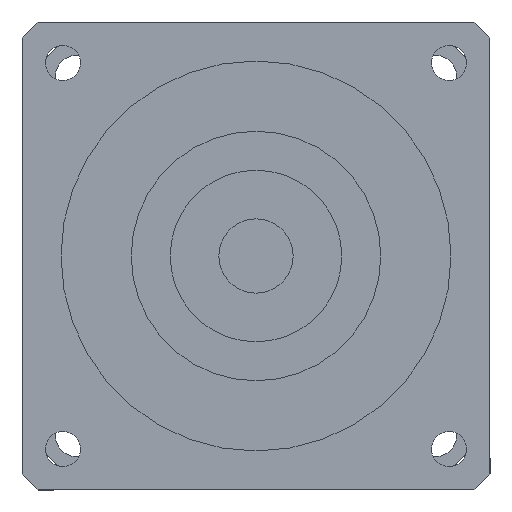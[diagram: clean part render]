
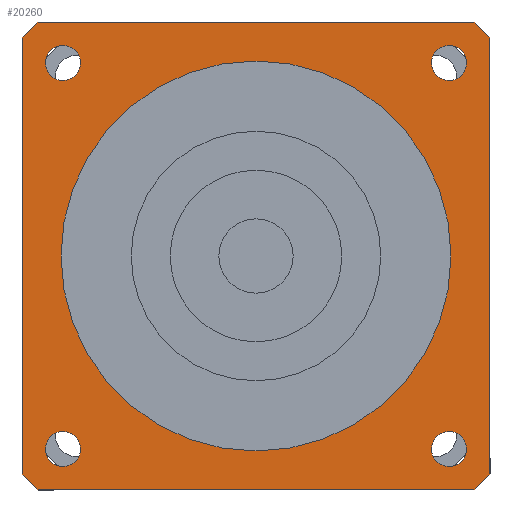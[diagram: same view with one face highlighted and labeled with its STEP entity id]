
A CAD part, left-side view. The second image highlights one B-rep face of the part: STEP entity #20260.
In plain terms, the highlighted planar face has unit normal (-1, 0, 0) as drawn and (0, 0, -1) by its records, which use the part's own axes.
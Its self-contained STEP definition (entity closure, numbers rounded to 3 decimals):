
#11110=CARTESIAN_POINT('',(-30.,-27.946,-64.5));
#11120=VERTEX_POINT('',#11110);
#11280=CARTESIAN_POINT('',(-27.946,-30.,-64.5));
#11290=VERTEX_POINT('',#11280);
#11320=CARTESIAN_POINT('',(0.,0.,
-64.5));
#11330=DIRECTION('',(0.,0.,1.));
#11340=DIRECTION('',(0.,-1.,0.));
#11350=AXIS2_PLACEMENT_3D('',#11320,#11330,#11340);
#11360=CIRCLE('',#11350,41.);
#11370=EDGE_CURVE('',#11120,#11290,#11360,.T.);
#12870=CARTESIAN_POINT('',(-30.,27.946,-64.5));
#12880=VERTEX_POINT('',#12870);
#12980=CARTESIAN_POINT('',(-30.,30.,-64.5));
#12990=DIRECTION('',(0.,-1.,0.));
#13000=VECTOR('',#12990,1000.);
#13010=LINE('',#12980,#13000);
#13020=EDGE_CURVE('',#12880,#11120,#13010,.T.);
#17850=CARTESIAN_POINT('',(-27.946,30.,-64.5));
#17860=VERTEX_POINT('',#17850);
#17910=CARTESIAN_POINT('',(0.,0.,
-64.5));
#17920=DIRECTION('',(0.,0.,1.));
#17930=DIRECTION('',(0.,-1.,0.));
#17940=AXIS2_PLACEMENT_3D('',#17910,#17920,#17930);
#17950=CIRCLE('',#17940,41.);
#17960=EDGE_CURVE('',#17860,#12880,#17950,.T.);
#18100=CARTESIAN_POINT('',(27.946,30.,-64.5));
#18110=VERTEX_POINT('',#18100);
#18160=CARTESIAN_POINT('',(30.,30.,-64.5));
#18170=DIRECTION('',(-1.,0.,0.));
#18180=VECTOR('',#18170,1000.);
#18190=LINE('',#18160,#18180);
#18200=EDGE_CURVE('',#18110,#17860,#18190,.T.);
#18310=CARTESIAN_POINT('',(0.,0.,
-64.5));
#18320=DIRECTION('',(0.,0.,1.));
#18330=DIRECTION('',(0.,-1.,0.));
#18340=AXIS2_PLACEMENT_3D('',#18310,#18320,#18330);
#18350=CIRCLE('',#18340,41.);
#18360=CARTESIAN_POINT('',(30.,27.946,-64.5));
#18370=VERTEX_POINT('',#18360);
#18380=EDGE_CURVE('',#18370,#18110,#18350,.T.);
#18590=CARTESIAN_POINT('',(30.,-27.946,-64.5));
#18600=VERTEX_POINT('',#18590);
#18650=CARTESIAN_POINT('',(30.,-30.,-64.5));
#18660=DIRECTION('',(0.,1.,0.));
#18670=VECTOR('',#18660,1000.);
#18680=LINE('',#18650,#18670);
#18690=EDGE_CURVE('',#18600,#18370,#18680,.T.);
#18830=CARTESIAN_POINT('',(27.946,-30.,-64.5));
#18840=VERTEX_POINT('',#18830);
#18890=CARTESIAN_POINT('',(0.,0.,
-64.5));
#18900=DIRECTION('',(0.,0.,1.));
#18910=DIRECTION('',(0.,-1.,0.));
#18920=AXIS2_PLACEMENT_3D('',#18890,#18900,#18910);
#18930=CIRCLE('',#18920,41.);
#18940=EDGE_CURVE('',#18840,#18600,#18930,.T.);
#19070=CARTESIAN_POINT('',(-30.,-30.,-64.5));
#19080=DIRECTION('',(1.,0.,0.));
#19090=VECTOR('',#19080,1000.);
#19100=LINE('',#19070,#19090);
#19110=EDGE_CURVE('',#11290,#18840,#19100,.T.);
#19160=CARTESIAN_POINT('',(-30.,30.,-64.5));
#19170=DIRECTION('',(0.,0.,1.));
#19180=DIRECTION('',(-1.,0.,0.));
#19190=AXIS2_PLACEMENT_3D('',#19160,#19170,#19180);
#19200=PLANE('',#19190);
#19210=CARTESIAN_POINT('',(24.749,-24.749,-64.5));
#19220=DIRECTION('',(0.,0.,-1.));
#19230=DIRECTION('',(1.,0.,0.));
#19240=AXIS2_PLACEMENT_3D('',#19210,#19220,#19230);
#19250=CIRCLE('',#19240,2.25);
#19260=CARTESIAN_POINT('',(26.999,-24.749,-64.5));
#19270=VERTEX_POINT('',#19260);
#19280=CARTESIAN_POINT('',(24.749,-26.999,-64.5));
#19290=VERTEX_POINT('',#19280);
#19300=EDGE_CURVE('',#19270,#19290,#19250,.T.);
#19310=ORIENTED_EDGE('',*,*,#19300,.F.);
#19320=CARTESIAN_POINT('',(24.749,-22.499,-64.5));
#19330=VERTEX_POINT('',#19320);
#19340=EDGE_CURVE('',#19290,#19330,#19250,.T.);
#19350=ORIENTED_EDGE('',*,*,#19340,.F.);
#19360=EDGE_CURVE('',#19330,#19270,#19250,.T.);
#19370=ORIENTED_EDGE('',*,*,#19360,.F.);
#19380=EDGE_LOOP('',(#19370,#19350,#19310));
#19390=FACE_BOUND('',#19380,.T.);
#19400=CARTESIAN_POINT('',(24.749,24.749,-64.5));
#19410=DIRECTION('',(0.,0.,-1.));
#19420=DIRECTION('',(0.,1.,0.));
#19430=AXIS2_PLACEMENT_3D('',#19400,#19410,#19420);
#19440=CIRCLE('',#19430,2.25);
#19450=CARTESIAN_POINT('',(24.749,26.999,-64.5));
#19460=VERTEX_POINT('',#19450);
#19470=CARTESIAN_POINT('',(26.999,24.749,-64.5));
#19480=VERTEX_POINT('',#19470);
#19490=EDGE_CURVE('',#19460,#19480,#19440,.T.);
#19500=ORIENTED_EDGE('',*,*,#19490,.F.);
#19510=CARTESIAN_POINT('',(22.499,24.749,-64.5));
#19520=VERTEX_POINT('',#19510);
#19530=EDGE_CURVE('',#19480,#19520,#19440,.T.);
#19540=ORIENTED_EDGE('',*,*,#19530,.F.);
#19550=EDGE_CURVE('',#19520,#19460,#19440,.T.);
#19560=ORIENTED_EDGE('',*,*,#19550,.F.);
#19570=EDGE_LOOP('',(#19560,#19540,#19500));
#19580=FACE_BOUND('',#19570,.T.);
#19590=CARTESIAN_POINT('',(-24.749,24.749,-64.5));
#19600=DIRECTION('',(0.,0.,-1.));
#19610=DIRECTION('',(-1.,0.,0.));
#19620=AXIS2_PLACEMENT_3D('',#19590,#19600,#19610);
#19630=CIRCLE('',#19620,2.25);
#19640=CARTESIAN_POINT('',(-26.999,24.749,-64.5));
#19650=VERTEX_POINT('',#19640);
#19660=CARTESIAN_POINT('',(-24.749,26.999,-64.5));
#19670=VERTEX_POINT('',#19660);
#19680=EDGE_CURVE('',#19650,#19670,#19630,.T.);
#19690=ORIENTED_EDGE('',*,*,#19680,.F.);
#19700=CARTESIAN_POINT('',(-24.749,22.499,-64.5));
#19710=VERTEX_POINT('',#19700);
#19720=EDGE_CURVE('',#19670,#19710,#19630,.T.);
#19730=ORIENTED_EDGE('',*,*,#19720,.F.);
#19740=EDGE_CURVE('',#19710,#19650,#19630,.T.);
#19750=ORIENTED_EDGE('',*,*,#19740,.F.);
#19760=EDGE_LOOP('',(#19750,#19730,#19690));
#19770=FACE_BOUND('',#19760,.T.);
#19780=CARTESIAN_POINT('',(-24.749,-24.749,-64.5));
#19790=DIRECTION('',(0.,0.,-1.));
#19800=DIRECTION('',(0.,-1.,0.));
#19810=AXIS2_PLACEMENT_3D('',#19780,#19790,#19800);
#19820=CIRCLE('',#19810,2.25);
#19830=CARTESIAN_POINT('',(-24.749,-26.999,-64.5));
#19840=VERTEX_POINT('',#19830);
#19850=CARTESIAN_POINT('',(-26.999,-24.749,-64.5));
#19860=VERTEX_POINT('',#19850);
#19870=EDGE_CURVE('',#19840,#19860,#19820,.T.);
#19880=ORIENTED_EDGE('',*,*,#19870,.F.);
#19890=CARTESIAN_POINT('',(-22.499,-24.749,-64.5));
#19900=VERTEX_POINT('',#19890);
#19910=EDGE_CURVE('',#19860,#19900,#19820,.T.);
#19920=ORIENTED_EDGE('',*,*,#19910,.F.);
#19930=EDGE_CURVE('',#19900,#19840,#19820,.T.);
#19940=ORIENTED_EDGE('',*,*,#19930,.F.);
#19950=EDGE_LOOP('',(#19940,#19920,#19880));
#19960=FACE_BOUND('',#19950,.T.);
#19970=ORIENTED_EDGE('',*,*,#11370,.F.);
#19980=ORIENTED_EDGE('',*,*,#19110,.F.);
#19990=ORIENTED_EDGE('',*,*,#18940,.F.);
#20000=ORIENTED_EDGE('',*,*,#18690,.F.);
#20010=ORIENTED_EDGE('',*,*,#18380,.F.);
#20020=ORIENTED_EDGE('',*,*,#18200,.F.);
#20030=ORIENTED_EDGE('',*,*,#17960,.F.);
#20040=ORIENTED_EDGE('',*,*,#13020,.F.);
#20050=EDGE_LOOP('',(#20040,#20030,#20020,#20010,#20000,#19990,#19980,
#19970));
#20060=FACE_OUTER_BOUND('',#20050,.T.);
#20070=CARTESIAN_POINT('',(0.,0.,
-64.5));
#20080=DIRECTION('',(0.,0.,1.));
#20090=DIRECTION('',(0.,-1.,0.));
#20100=AXIS2_PLACEMENT_3D('',#20070,#20080,#20090);
#20110=CIRCLE('',#20100,25.);
#20120=CARTESIAN_POINT('',(25.,0.,-64.5));
#20130=VERTEX_POINT('',#20120);
#20140=CARTESIAN_POINT('',(-25.,0.,-64.5));
#20150=VERTEX_POINT('',#20140);
#20160=EDGE_CURVE('',#20130,#20150,#20110,.T.);
#20170=ORIENTED_EDGE('',*,*,#20160,.T.);
#20180=CARTESIAN_POINT('',(0.,-25.,-64.5));
#20190=VERTEX_POINT('',#20180);
#20200=EDGE_CURVE('',#20190,#20130,#20110,.T.);
#20210=ORIENTED_EDGE('',*,*,#20200,.T.);
#20220=EDGE_CURVE('',#20150,#20190,#20110,.T.);
#20230=ORIENTED_EDGE('',*,*,#20220,.T.);
#20240=EDGE_LOOP('',(#20230,#20210,#20170));
#20250=FACE_BOUND('',#20240,.T.);
#20260=ADVANCED_FACE('',(#19390,#19580,#19770,#19960,#20060,#20250),
#19200,.F.);
